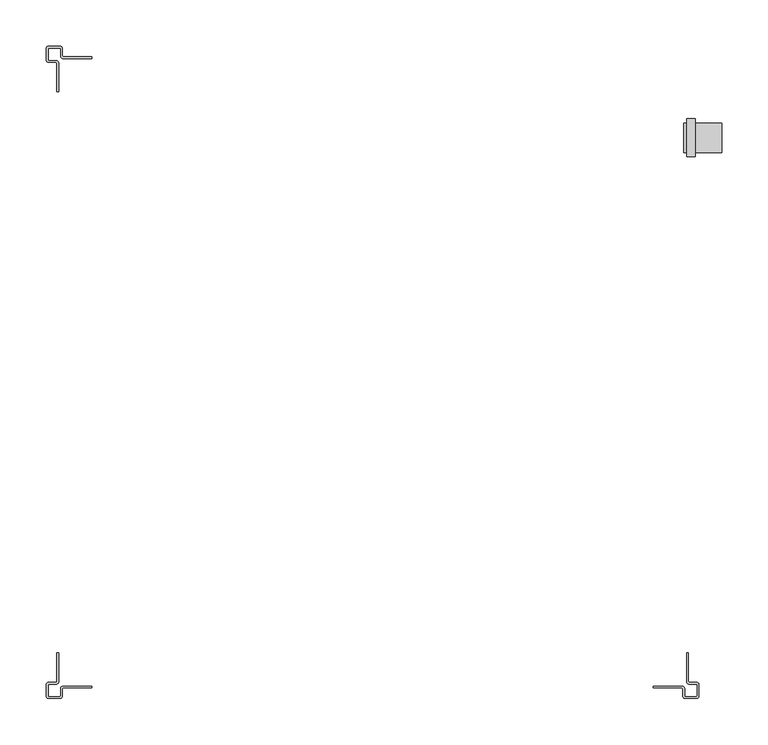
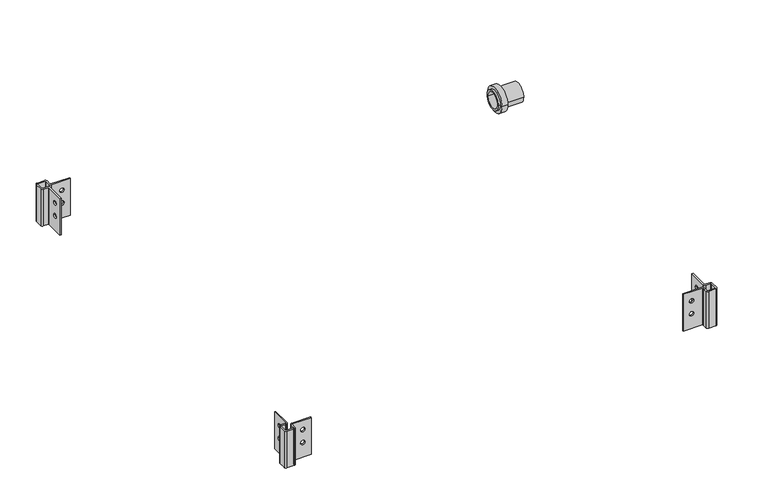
"""IFC4 building model written with IfcOpenShell, lengths in millimetres: proxy geometry, 50 SWHP : #50-SWHP."""

from ifc_helpers import new_model, si_unit, point, frame, frame_2d, origin, place, context, project, spatial, polyline, circle_curve, trimmed, segment, composite_curve, outline, extrude, source, transform, mapped, element, save
from ifc_brep_helpers import plane_surface, cylinder_surface, revolved_surface, advanced_brep


def generic_models_8b985dce(model_context):
    return source(origin(), model_context, "Body", "SolidModel", [
        advanced_brep(
        [(341.7316, -303.7332, 63.5), (339.725, -303.7332, 63.5), (339.725, -334.8736, 63.5), (342.4936, -337.6422, 63.5), (350.393, -337.6422, 63.5), (351.155, -338.4042, 63.5), (351.155, -350.393, 63.5), (350.393, -351.155, 63.5), (338.4042, -351.155, 63.5), (337.6422, -350.393, 63.5), (337.6422, -342.4936, 63.5), (334.8736, -339.725, 63.5), (303.7332, -339.725, 63.5), (303.7332, -341.7316, 63.5), (334.8736, -341.7316, 63.5), (335.6356, -342.4936, 63.5), (335.6356, -350.393, 63.5), (338.4042, -353.1616, 63.5), (350.393, -353.1616, 63.5), (353.1616, -350.393, 63.5), (353.1616, -338.4042, 63.5), (350.393, -335.6356, 63.5), (342.4936, -335.6356, 63.5), (341.7316, -334.8736, 63.5), (341.7316, -303.7332, 0.0), (341.7316, -334.8736, 0.0), (342.4936, -335.6356, 0.0), (350.393, -335.6356, 0.0), (353.1616, -338.4042, 0.0), (353.1616, -350.393, 0.0), (350.393, -353.1616, 0.0), (338.4042, -353.1616, 0.0), (335.6356, -350.393, 0.0), (335.6356, -342.4936, 0.0), (334.8736, -341.7316, 0.0), (303.7332, -341.7316, 0.0), (303.7332, -339.725, 0.0), (334.8736, -339.725, 0.0), (337.6422, -342.4936, 0.0), (337.6422, -350.393, 0.0), (338.4042, -351.155, 0.0), (350.393, -351.155, 0.0), (351.155, -350.393, 0.0), (351.155, -338.4042, 0.0), (350.393, -337.6422, 0.0), (342.4936, -337.6422, 0.0), (339.725, -334.8736, 0.0), (339.725, -303.7332, 0.0), (339.725, -321.0687, 47.625), (339.725, -313.9313, 47.625), (339.725, -321.0687, 25.4), (339.725, -313.9313, 25.4), (313.9313, -339.725, 47.625), (321.0687, -339.725, 47.625), (313.9313, -339.725, 25.4), (321.0687, -339.725, 25.4), (321.0687, -341.7316, 47.625), (313.9313, -341.7316, 47.625), (321.0687, -341.7316, 25.4), (313.9313, -341.7316, 25.4), (341.7316, -313.9313, 47.625), (341.7316, -321.0687, 47.625), (341.7316, -313.9313, 25.4), (341.7316, -321.0687, 25.4)],
        [
            (0, 1),
            (1, 2),
            (2, 3, circle_curve(frame((342.4936, -334.8736, 63.5), z_axis=(0.0, 0.0, 1.0), x_axis=(1.0, 0.0, 0.0)), 2.7686)),
            (3, 4),
            (4, 5, circle_curve(frame((350.393, -338.4042, 63.5), z_axis=(0.0, 0.0, -1.0), x_axis=(1.0, 0.0, 0.0)), 0.762)),
            (5, 6),
            (6, 7, circle_curve(frame((350.393, -350.393, 63.5), z_axis=(0.0, 0.0, -1.0), x_axis=(1.0, 0.0, 0.0)), 0.762)),
            (7, 8),
            (8, 9, circle_curve(frame((338.4042, -350.393, 63.5), z_axis=(0.0, 0.0, -1.0), x_axis=(1.0, 0.0, 0.0)), 0.762)),
            (9, 10),
            (10, 11, circle_curve(frame((334.8736, -342.4936, 63.5), z_axis=(0.0, 0.0, 1.0), x_axis=(1.0, 0.0, 0.0)), 2.7686)),
            (11, 12),
            (12, 13),
            (13, 14),
            (14, 15, circle_curve(frame((334.8736, -342.4936, 63.5), z_axis=(0.0, 0.0, -1.0), x_axis=(1.0, 0.0, 0.0)), 0.762)),
            (15, 16),
            (16, 17, circle_curve(frame((338.4042, -350.393, 63.5), z_axis=(0.0, 0.0, 1.0), x_axis=(1.0, 0.0, 0.0)), 2.7686)),
            (17, 18),
            (18, 19, circle_curve(frame((350.393, -350.393, 63.5), z_axis=(0.0, 0.0, 1.0), x_axis=(1.0, 0.0, 0.0)), 2.7686)),
            (19, 20),
            (20, 21, circle_curve(frame((350.393, -338.4042, 63.5), z_axis=(0.0, 0.0, 1.0), x_axis=(1.0, 0.0, 0.0)), 2.7686)),
            (21, 22),
            (22, 23, circle_curve(frame((342.4936, -334.8736, 63.5), z_axis=(0.0, 0.0, -1.0), x_axis=(1.0, 0.0, 0.0)), 0.762)),
            (23, 0),
            (24, 25),
            (25, 26, circle_curve(frame((342.4936, -334.8736, 0.0), z_axis=(0.0, 0.0, 1.0), x_axis=(1.0, 0.0, 0.0)), 0.762)),
            (26, 27),
            (27, 28, circle_curve(frame((350.393, -338.4042, 0.0), z_axis=(0.0, 0.0, -1.0), x_axis=(1.0, 0.0, 0.0)), 2.7686)),
            (28, 29),
            (29, 30, circle_curve(frame((350.393, -350.393, 0.0), z_axis=(0.0, 0.0, -1.0), x_axis=(1.0, 0.0, 0.0)), 2.7686)),
            (30, 31),
            (31, 32, circle_curve(frame((338.4042, -350.393, 0.0), z_axis=(0.0, 0.0, -1.0), x_axis=(1.0, 0.0, 0.0)), 2.7686)),
            (32, 33),
            (33, 34, circle_curve(frame((334.8736, -342.4936, 0.0), z_axis=(0.0, 0.0, 1.0), x_axis=(1.0, 0.0, 0.0)), 0.762)),
            (34, 35),
            (35, 36),
            (36, 37),
            (37, 38, circle_curve(frame((334.8736, -342.4936, 0.0), z_axis=(0.0, 0.0, -1.0), x_axis=(1.0, 0.0, 0.0)), 2.7686)),
            (38, 39),
            (39, 40, circle_curve(frame((338.4042, -350.393, 0.0), z_axis=(0.0, 0.0, 1.0), x_axis=(1.0, 0.0, 0.0)), 0.762)),
            (40, 41),
            (41, 42, circle_curve(frame((350.393, -350.393, 0.0), z_axis=(0.0, 0.0, 1.0), x_axis=(1.0, 0.0, 0.0)), 0.762)),
            (42, 43),
            (43, 44, circle_curve(frame((350.393, -338.4042, 0.0), z_axis=(0.0, 0.0, 1.0), x_axis=(1.0, 0.0, 0.0)), 0.762)),
            (44, 45),
            (45, 46, circle_curve(frame((342.4936, -334.8736, 0.0), z_axis=(0.0, 0.0, -1.0), x_axis=(1.0, 0.0, 0.0)), 2.7686)),
            (46, 47),
            (47, 24),
            (0, 24),
            (47, 1),
            (46, 2),
            (48, 49, circle_curve(frame((339.725, -317.5, 47.625), z_axis=(1.0, 0.0, 0.0), x_axis=(0.0, -1.0, 0.0)), 3.5687)),
            (49, 48, circle_curve(frame((339.725, -317.5, 47.625), z_axis=(1.0, 0.0, 0.0), x_axis=(0.0, -1.0, 0.0)), 3.5687)),
            (50, 51, circle_curve(frame((339.725, -317.5, 25.4), z_axis=(1.0, 0.0, 0.0), x_axis=(0.0, -1.0, 0.0)), 3.5687)),
            (51, 50, circle_curve(frame((339.725, -317.5, 25.4), z_axis=(1.0, 0.0, 0.0), x_axis=(0.0, -1.0, 0.0)), 3.5687)),
            (45, 3),
            (44, 4),
            (43, 5),
            (42, 6),
            (41, 7),
            (40, 8),
            (39, 9),
            (38, 10),
            (37, 11),
            (36, 12),
            (52, 53, circle_curve(frame((317.5, -339.725, 47.625), z_axis=(0.0, -1.0, 0.0), x_axis=(-1.0, 0.0, 0.0)), 3.5687)),
            (53, 52, circle_curve(frame((317.5, -339.725, 47.625), z_axis=(0.0, -1.0, 0.0), x_axis=(-1.0, 0.0, 0.0)), 3.5687)),
            (54, 55, circle_curve(frame((317.5, -339.725, 25.4), z_axis=(0.0, -1.0, 0.0), x_axis=(-1.0, 0.0, 0.0)), 3.5687)),
            (55, 54, circle_curve(frame((317.5, -339.725, 25.4), z_axis=(0.0, -1.0, 0.0), x_axis=(-1.0, 0.0, 0.0)), 3.5687)),
            (35, 13),
            (34, 14),
            (56, 57, circle_curve(frame((317.5, -341.7316, 47.625), z_axis=(0.0, 1.0, 0.0), x_axis=(-1.0, 0.0, 0.0)), 3.5687)),
            (57, 56, circle_curve(frame((317.5, -341.7316, 47.625), z_axis=(0.0, 1.0, 0.0), x_axis=(-1.0, 0.0, 0.0)), 3.5687)),
            (58, 59, circle_curve(frame((317.5, -341.7316, 25.4), z_axis=(0.0, 1.0, 0.0), x_axis=(-1.0, 0.0, 0.0)), 3.5687)),
            (59, 58, circle_curve(frame((317.5, -341.7316, 25.4), z_axis=(0.0, 1.0, 0.0), x_axis=(-1.0, 0.0, 0.0)), 3.5687)),
            (33, 15),
            (32, 16),
            (31, 17),
            (30, 18),
            (29, 19),
            (28, 20),
            (27, 21),
            (26, 22),
            (25, 23),
            (60, 61, circle_curve(frame((341.7316, -317.5, 47.625), z_axis=(-1.0, 0.0, 0.0), x_axis=(0.0, -1.0, 0.0)), 3.5687)),
            (61, 60, circle_curve(frame((341.7316, -317.5, 47.625), z_axis=(-1.0, 0.0, 0.0), x_axis=(0.0, -1.0, 0.0)), 3.5687)),
            (62, 63, circle_curve(frame((341.7316, -317.5, 25.4), z_axis=(-1.0, 0.0, 0.0), x_axis=(0.0, -1.0, 0.0)), 3.5687)),
            (63, 62, circle_curve(frame((341.7316, -317.5, 25.4), z_axis=(-1.0, 0.0, 0.0), x_axis=(0.0, -1.0, 0.0)), 3.5687)),
            (56, 53),
            (52, 57),
            (58, 55),
            (54, 59),
            (60, 49),
            (48, 61),
            (62, 51),
            (50, 63),
        ],
        [
            plane_surface(frame((339.725, -303.7332, 63.5), z_axis=(0.0, 0.0, 1.0), x_axis=(-1.0, 0.0, 0.0))),
            plane_surface(frame((339.725, -303.7332, 0.0), z_axis=(0.0, 0.0, -1.0), x_axis=(1.0, 0.0, 0.0))),
            plane_surface(frame((341.7316, -303.7332, 63.5), z_axis=(0.0, 1.0, 0.0), x_axis=(0.0, 0.0, -1.0))),
            plane_surface(frame((339.725, -303.7332, 63.5), z_axis=(-1.0, 0.0, 0.0), x_axis=(0.0, 0.0, -1.0))),
            cylinder_surface(frame((342.4936, -334.8736, 0.0), z_axis=(0.0, 0.0, 1.0), x_axis=(1.0, 0.0, 0.0)), 2.7686),
            plane_surface(frame((342.4936, -337.6422, 63.5), z_axis=(0.0, -1.0, 0.0), x_axis=(0.0, 0.0, -1.0))),
            revolved_surface(polyline([(351.155, -338.4042, 0.0), (351.155, -338.4042, 63.5)]), (350.393, -338.4042, 0.0), (0.0, 0.0, -1.0)),
            plane_surface(frame((351.155, -338.4042, 63.5), z_axis=(-1.0, 0.0, 0.0), x_axis=(0.0, 0.0, -1.0))),
            revolved_surface(polyline([(351.155, -350.393, 0.0), (351.155, -350.393, 63.5)]), (350.393, -350.393, 0.0), (0.0, 0.0, -1.0)),
            plane_surface(frame((350.393, -351.155, 63.5), z_axis=(0.0, 1.0, 0.0), x_axis=(0.0, 0.0, -1.0))),
            revolved_surface(polyline([(339.1662, -350.393, 0.0), (339.1662, -350.393, 63.5)]), (338.4042, -350.393, 0.0), (0.0, 0.0, -1.0)),
            plane_surface(frame((337.6422, -350.393, 63.5), z_axis=(1.0, 0.0, 0.0), x_axis=(0.0, 0.0, -1.0))),
            cylinder_surface(frame((334.8736, -342.4936, 0.0), z_axis=(0.0, 0.0, 1.0), x_axis=(1.0, 0.0, 0.0)), 2.7686),
            plane_surface(frame((334.8736, -339.725, 63.5), z_axis=(0.0, 1.0, 0.0), x_axis=(0.0, 0.0, -1.0))),
            plane_surface(frame((303.7332, -339.725, 63.5), z_axis=(-1.0, 0.0, 0.0), x_axis=(0.0, 0.0, -1.0))),
            plane_surface(frame((303.7332, -341.7316, 63.5), z_axis=(0.0, -1.0, 0.0), x_axis=(0.0, 0.0, -1.0))),
            revolved_surface(polyline([(335.6356, -342.4936, 0.0), (335.6356, -342.4936, 63.5)]), (334.8736, -342.4936, 0.0), (0.0, 0.0, -1.0)),
            plane_surface(frame((335.6356, -342.4936, 63.5), z_axis=(-1.0, 0.0, 0.0), x_axis=(0.0, 0.0, -1.0))),
            cylinder_surface(frame((338.4042, -350.393, 0.0), z_axis=(0.0, 0.0, 1.0), x_axis=(1.0, 0.0, 0.0)), 2.7686),
            plane_surface(frame((338.4042, -353.1616, 63.5), z_axis=(0.0, -1.0, 0.0), x_axis=(0.0, 0.0, -1.0))),
            cylinder_surface(frame((350.393, -350.393, 0.0), z_axis=(0.0, 0.0, 1.0), x_axis=(1.0, 0.0, 0.0)), 2.7686),
            plane_surface(frame((353.1616, -350.393, 63.5), z_axis=(1.0, 0.0, 0.0), x_axis=(0.0, 0.0, -1.0))),
            cylinder_surface(frame((350.393, -338.4042, 0.0), z_axis=(0.0, 0.0, 1.0), x_axis=(1.0, 0.0, 0.0)), 2.7686),
            plane_surface(frame((350.393, -335.6356, 63.5), z_axis=(0.0, 1.0, 0.0), x_axis=(0.0, 0.0, -1.0))),
            revolved_surface(polyline([(343.2556, -334.8736, 0.0), (343.2556, -334.8736, 63.5)]), (342.4936, -334.8736, 0.0), (0.0, 0.0, -1.0)),
            plane_surface(frame((341.7316, -334.8736, 63.5), z_axis=(1.0, 0.0, 0.0), x_axis=(0.0, 0.0, -1.0))),
            revolved_surface(polyline([(313.9313, -339.725, 47.625), (313.9313, -341.7316, 47.625)]), (317.5, -344.3986, 47.625), (0.0, 1.0, 0.0)),
            revolved_surface(polyline([(313.9313, -339.725, 25.4), (313.9313, -341.7316, 25.4)]), (317.5, -344.3986, 25.4), (0.0, 1.0, 0.0)),
            revolved_surface(polyline([(339.725, -321.0687, 47.625), (341.7316, -321.0687, 47.625)]), (344.3986, -317.5, 47.625), (-1.0, 0.0, 0.0)),
            revolved_surface(polyline([(339.725, -321.0687, 25.4), (341.7316, -321.0687, 25.4)]), (344.3986, -317.5, 25.4), (-1.0, 0.0, 0.0)),
        ],
        [
            (0, [[1, 2, 3, 4, 5, 6, 7, 8, 9, 10, 11, 12, 13, 14, 15, 16, 17, 18, 19, 20, 21, 22, 23, 24]]),
            (1, [[25, 26, 27, 28, 29, 30, 31, 32, 33, 34, 35, 36, 37, 38, 39, 40, 41, 42, 43, 44, 45, 46, 47, 48]]),
            (2, [[-1, 49, -48, 50]]),
            (3, [[-2, -50, -47, 51], [52, 53], [54, 55]]),
            (4, [[-3, -51, -46, 56]]),
            (5, [[-4, -56, -45, 57]]),
            (6, [[-5, -57, -44, 58]]),
            (7, [[-6, -58, -43, 59]]),
            (8, [[-7, -59, -42, 60]]),
            (9, [[-8, -60, -41, 61]]),
            (10, [[-9, -61, -40, 62]]),
            (11, [[-10, -62, -39, 63]]),
            (12, [[-11, -63, -38, 64]]),
            (13, [[-12, -64, -37, 65], [66, 67], [68, 69]]),
            (14, [[-13, -65, -36, 70]]),
            (15, [[-14, -70, -35, 71], [72, 73], [74, 75]]),
            (16, [[-15, -71, -34, 76]]),
            (17, [[-16, -76, -33, 77]]),
            (18, [[-17, -77, -32, 78]]),
            (19, [[-18, -78, -31, 79]]),
            (20, [[-19, -79, -30, 80]]),
            (21, [[-20, -80, -29, 81]]),
            (22, [[-21, -81, -28, 82]]),
            (23, [[-22, -82, -27, 83]]),
            (24, [[-23, -83, -26, 84]]),
            (25, [[-24, -84, -25, -49], [85, 86], [87, 88]]),
            (26, [[89, -66, 90, -72]]),
            (26, [[-89, -73, -90, -67]]),
            (27, [[91, -68, 92, -74]]),
            (27, [[-91, -75, -92, -69]]),
            (28, [[93, -52, 94, -85]]),
            (28, [[-93, -86, -94, -53]]),
            (29, [[95, -54, 96, -87]]),
            (29, [[-95, -88, -96, -55]]),
        ],
    ),
        advanced_brep(
        [(-341.7316, -334.8736, 63.5), (-342.4936, -335.6356, 63.5), (-350.393, -335.6356, 63.5), (-353.1616, -338.4042, 63.5), (-353.1616, -350.393, 63.5), (-350.393, -353.1616, 63.5), (-338.4042, -353.1616, 63.5), (-335.6356, -350.393, 63.5), (-335.6356, -342.4936, 63.5), (-334.8736, -341.7316, 63.5), (-303.7332, -341.7316, 63.5), (-303.7332, -339.725, 63.5), (-334.8736, -339.725, 63.5), (-337.6422, -342.4936, 63.5), (-337.6422, -350.393, 63.5), (-338.4042, -351.155, 63.5), (-350.393, -351.155, 63.5), (-351.155, -350.393, 63.5), (-351.155, -338.4042, 63.5), (-350.393, -337.6422, 63.5), (-342.4936, -337.6422, 63.5), (-339.725, -334.8736, 63.5), (-339.725, -303.7332, 63.5), (-341.7316, -303.7332, 63.5), (-341.7316, -334.8736, 0.0), (-341.7316, -303.7332, 0.0), (-339.725, -303.7332, 0.0), (-339.725, -334.8736, 0.0), (-342.4936, -337.6422, 0.0), (-350.393, -337.6422, 0.0), (-351.155, -338.4042, 0.0), (-351.155, -350.393, 0.0), (-350.393, -351.155, 0.0), (-338.4042, -351.155, 0.0), (-337.6422, -350.393, 0.0), (-337.6422, -342.4936, 0.0), (-334.8736, -339.725, 0.0), (-303.7332, -339.725, 0.0), (-303.7332, -341.7316, 0.0), (-334.8736, -341.7316, 0.0), (-335.6356, -342.4936, 0.0), (-335.6356, -350.393, 0.0), (-338.4042, -353.1616, 0.0), (-350.393, -353.1616, 0.0), (-353.1616, -350.393, 0.0), (-353.1616, -338.4042, 0.0), (-350.393, -335.6356, 0.0), (-342.4936, -335.6356, 0.0), (-313.9313, -341.7316, 47.625), (-321.0687, -341.7316, 47.625), (-313.9313, -341.7316, 25.4), (-321.0687, -341.7316, 25.4), (-321.0687, -339.725, 47.625), (-313.9313, -339.725, 47.625), (-321.0687, -339.725, 25.4), (-313.9313, -339.725, 25.4), (-339.725, -313.9313, 47.625), (-339.725, -321.0687, 47.625), (-339.725, -313.9313, 25.4), (-339.725, -321.0687, 25.4), (-341.7316, -321.0687, 47.625), (-341.7316, -313.9313, 47.625), (-341.7316, -321.0687, 25.4), (-341.7316, -313.9313, 25.4)],
        [
            (0, 1, circle_curve(frame((-342.4936, -334.8736, 63.5), z_axis=(0.0, 0.0, -1.0), x_axis=(1.0, 0.0, 0.0)), 0.762)),
            (1, 2),
            (2, 3, circle_curve(frame((-350.393, -338.4042, 63.5), z_axis=(0.0, 0.0, 1.0), x_axis=(1.0, 0.0, 0.0)), 2.7686)),
            (3, 4),
            (4, 5, circle_curve(frame((-350.393, -350.393, 63.5), z_axis=(0.0, 0.0, 1.0), x_axis=(1.0, 0.0, 0.0)), 2.7686)),
            (5, 6),
            (6, 7, circle_curve(frame((-338.4042, -350.393, 63.5), z_axis=(0.0, 0.0, 1.0), x_axis=(1.0, 0.0, 0.0)), 2.7686)),
            (7, 8),
            (8, 9, circle_curve(frame((-334.8736, -342.4936, 63.5), z_axis=(0.0, 0.0, -1.0), x_axis=(1.0, 0.0, 0.0)), 0.762)),
            (9, 10),
            (10, 11),
            (11, 12),
            (12, 13, circle_curve(frame((-334.8736, -342.4936, 63.5), z_axis=(0.0, 0.0, 1.0), x_axis=(1.0, 0.0, 0.0)), 2.7686)),
            (13, 14),
            (14, 15, circle_curve(frame((-338.4042, -350.393, 63.5), z_axis=(0.0, 0.0, -1.0), x_axis=(1.0, 0.0, 0.0)), 0.762)),
            (15, 16),
            (16, 17, circle_curve(frame((-350.393, -350.393, 63.5), z_axis=(0.0, 0.0, -1.0), x_axis=(1.0, 0.0, 0.0)), 0.762)),
            (17, 18),
            (18, 19, circle_curve(frame((-350.393, -338.4042, 63.5), z_axis=(0.0, 0.0, -1.0), x_axis=(1.0, 0.0, 0.0)), 0.762)),
            (19, 20),
            (20, 21, circle_curve(frame((-342.4936, -334.8736, 63.5), z_axis=(0.0, 0.0, 1.0), x_axis=(1.0, 0.0, 0.0)), 2.7686)),
            (21, 22),
            (22, 23),
            (23, 0),
            (24, 25),
            (25, 26),
            (26, 27),
            (27, 28, circle_curve(frame((-342.4936, -334.8736, 0.0), z_axis=(0.0, 0.0, -1.0), x_axis=(1.0, 0.0, 0.0)), 2.7686)),
            (28, 29),
            (29, 30, circle_curve(frame((-350.393, -338.4042, 0.0), z_axis=(0.0, 0.0, 1.0), x_axis=(1.0, 0.0, 0.0)), 0.762)),
            (30, 31),
            (31, 32, circle_curve(frame((-350.393, -350.393, 0.0), z_axis=(0.0, 0.0, 1.0), x_axis=(1.0, 0.0, 0.0)), 0.762)),
            (32, 33),
            (33, 34, circle_curve(frame((-338.4042, -350.393, 0.0), z_axis=(0.0, 0.0, 1.0), x_axis=(1.0, 0.0, 0.0)), 0.762)),
            (34, 35),
            (35, 36, circle_curve(frame((-334.8736, -342.4936, 0.0), z_axis=(0.0, 0.0, -1.0), x_axis=(1.0, 0.0, 0.0)), 2.7686)),
            (36, 37),
            (37, 38),
            (38, 39),
            (39, 40, circle_curve(frame((-334.8736, -342.4936, 0.0), z_axis=(0.0, 0.0, 1.0), x_axis=(1.0, 0.0, 0.0)), 0.762)),
            (40, 41),
            (41, 42, circle_curve(frame((-338.4042, -350.393, 0.0), z_axis=(0.0, 0.0, -1.0), x_axis=(1.0, 0.0, 0.0)), 2.7686)),
            (42, 43),
            (43, 44, circle_curve(frame((-350.393, -350.393, 0.0), z_axis=(0.0, 0.0, -1.0), x_axis=(1.0, 0.0, 0.0)), 2.7686)),
            (44, 45),
            (45, 46, circle_curve(frame((-350.393, -338.4042, 0.0), z_axis=(0.0, 0.0, -1.0), x_axis=(1.0, 0.0, 0.0)), 2.7686)),
            (46, 47),
            (47, 24, circle_curve(frame((-342.4936, -334.8736, 0.0), z_axis=(0.0, 0.0, 1.0), x_axis=(1.0, 0.0, 0.0)), 0.762)),
            (0, 24),
            (47, 1),
            (46, 2),
            (45, 3),
            (44, 4),
            (43, 5),
            (42, 6),
            (41, 7),
            (40, 8),
            (39, 9),
            (38, 10),
            (48, 49, circle_curve(frame((-317.5, -341.7316, 47.625), z_axis=(0.0, 1.0, 0.0), x_axis=(-1.0, 0.0, 0.0)), 3.5687)),
            (49, 48, circle_curve(frame((-317.5, -341.7316, 47.625), z_axis=(0.0, 1.0, 0.0), x_axis=(-1.0, 0.0, 0.0)), 3.5687)),
            (50, 51, circle_curve(frame((-317.5, -341.7316, 25.4), z_axis=(0.0, 1.0, 0.0), x_axis=(-1.0, 0.0, 0.0)), 3.5687)),
            (51, 50, circle_curve(frame((-317.5, -341.7316, 25.4), z_axis=(0.0, 1.0, 0.0), x_axis=(-1.0, 0.0, 0.0)), 3.5687)),
            (37, 11),
            (36, 12),
            (52, 53, circle_curve(frame((-317.5, -339.725, 47.625), z_axis=(0.0, -1.0, 0.0), x_axis=(-1.0, 0.0, 0.0)), 3.5687)),
            (53, 52, circle_curve(frame((-317.5, -339.725, 47.625), z_axis=(0.0, -1.0, 0.0), x_axis=(-1.0, 0.0, 0.0)), 3.5687)),
            (54, 55, circle_curve(frame((-317.5, -339.725, 25.4), z_axis=(0.0, -1.0, 0.0), x_axis=(-1.0, 0.0, 0.0)), 3.5687)),
            (55, 54, circle_curve(frame((-317.5, -339.725, 25.4), z_axis=(0.0, -1.0, 0.0), x_axis=(-1.0, 0.0, 0.0)), 3.5687)),
            (35, 13),
            (34, 14),
            (33, 15),
            (32, 16),
            (31, 17),
            (30, 18),
            (29, 19),
            (28, 20),
            (27, 21),
            (26, 22),
            (56, 57, circle_curve(frame((-339.725, -317.5, 47.625), z_axis=(-1.0, 0.0, 0.0), x_axis=(0.0, -1.0, 0.0)), 3.5687)),
            (57, 56, circle_curve(frame((-339.725, -317.5, 47.625), z_axis=(-1.0, 0.0, 0.0), x_axis=(0.0, -1.0, 0.0)), 3.5687)),
            (58, 59, circle_curve(frame((-339.725, -317.5, 25.4), z_axis=(-1.0, 0.0, 0.0), x_axis=(0.0, -1.0, 0.0)), 3.5687)),
            (59, 58, circle_curve(frame((-339.725, -317.5, 25.4), z_axis=(-1.0, 0.0, 0.0), x_axis=(0.0, -1.0, 0.0)), 3.5687)),
            (25, 23),
            (60, 61, circle_curve(frame((-341.7316, -317.5, 47.625), z_axis=(1.0, 0.0, 0.0), x_axis=(0.0, -1.0, 0.0)), 3.5687)),
            (61, 60, circle_curve(frame((-341.7316, -317.5, 47.625), z_axis=(1.0, 0.0, 0.0), x_axis=(0.0, -1.0, 0.0)), 3.5687)),
            (62, 63, circle_curve(frame((-341.7316, -317.5, 25.4), z_axis=(1.0, 0.0, 0.0), x_axis=(0.0, -1.0, 0.0)), 3.5687)),
            (63, 62, circle_curve(frame((-341.7316, -317.5, 25.4), z_axis=(1.0, 0.0, 0.0), x_axis=(0.0, -1.0, 0.0)), 3.5687)),
            (56, 61),
            (60, 57),
            (58, 63),
            (62, 59),
            (48, 53),
            (52, 49),
            (50, 55),
            (54, 51),
        ],
        [
            plane_surface(frame((-341.7316, -334.8736, 63.5), z_axis=(0.0, 0.0, 1.0), x_axis=(0.0, -1.0, 0.0))),
            plane_surface(frame((-341.7316, -334.8736, 0.0), z_axis=(0.0, 0.0, -1.0), x_axis=(0.0, 1.0, 0.0))),
            revolved_surface(polyline([(-341.7316, -334.8736, 0.0), (-341.7316, -334.8736, 63.5)]), (-342.4936, -334.8736, 0.0), (0.0, 0.0, -1.0)),
            plane_surface(frame((-342.4936, -335.6356, 63.5), z_axis=(0.0, 1.0, 0.0), x_axis=(0.0, 0.0, -1.0))),
            cylinder_surface(frame((-350.393, -338.4042, 0.0), z_axis=(0.0, 0.0, 1.0), x_axis=(1.0, 0.0, 0.0)), 2.7686),
            plane_surface(frame((-353.1616, -338.4042, 63.5), z_axis=(-1.0, 0.0, 0.0), x_axis=(0.0, 0.0, -1.0))),
            cylinder_surface(frame((-350.393, -350.393, 0.0), z_axis=(0.0, 0.0, 1.0), x_axis=(1.0, 0.0, 0.0)), 2.7686),
            plane_surface(frame((-350.393, -353.1616, 63.5), z_axis=(0.0, -1.0, 0.0), x_axis=(0.0, 0.0, -1.0))),
            cylinder_surface(frame((-338.4042, -350.393, 0.0), z_axis=(0.0, 0.0, 1.0), x_axis=(1.0, 0.0, 0.0)), 2.7686),
            plane_surface(frame((-335.6356, -350.393, 63.5), z_axis=(1.0, 0.0, 0.0), x_axis=(0.0, 0.0, -1.0))),
            revolved_surface(polyline([(-334.1116, -342.4936, 0.0), (-334.1116, -342.4936, 63.5)]), (-334.8736, -342.4936, 0.0), (0.0, 0.0, -1.0)),
            plane_surface(frame((-334.8736, -341.7316, 63.5), z_axis=(0.0, -1.0, 0.0), x_axis=(0.0, 0.0, -1.0))),
            plane_surface(frame((-303.7332, -341.7316, 63.5), z_axis=(1.0, 0.0, 0.0), x_axis=(0.0, 0.0, -1.0))),
            plane_surface(frame((-303.7332, -339.725, 63.5), z_axis=(0.0, 1.0, 0.0), x_axis=(0.0, 0.0, -1.0))),
            cylinder_surface(frame((-334.8736, -342.4936, 0.0), z_axis=(0.0, 0.0, 1.0), x_axis=(1.0, 0.0, 0.0)), 2.7686),
            plane_surface(frame((-337.6422, -342.4936, 63.5), z_axis=(-1.0, 0.0, 0.0), x_axis=(0.0, 0.0, -1.0))),
            revolved_surface(polyline([(-337.6422, -350.393, 0.0), (-337.6422, -350.393, 63.5)]), (-338.4042, -350.393, 0.0), (0.0, 0.0, -1.0)),
            plane_surface(frame((-338.4042, -351.155, 63.5), z_axis=(0.0, 1.0, 0.0), x_axis=(0.0, 0.0, -1.0))),
            revolved_surface(polyline([(-349.631, -350.393, 0.0), (-349.631, -350.393, 63.5)]), (-350.393, -350.393, 0.0), (0.0, 0.0, -1.0)),
            plane_surface(frame((-351.155, -350.393, 63.5), z_axis=(1.0, 0.0, 0.0), x_axis=(0.0, 0.0, -1.0))),
            revolved_surface(polyline([(-349.631, -338.4042, 0.0), (-349.631, -338.4042, 63.5)]), (-350.393, -338.4042, 0.0), (0.0, 0.0, -1.0)),
            plane_surface(frame((-350.393, -337.6422, 63.5), z_axis=(0.0, -1.0, 0.0), x_axis=(0.0, 0.0, -1.0))),
            cylinder_surface(frame((-342.4936, -334.8736, 0.0), z_axis=(0.0, 0.0, 1.0), x_axis=(1.0, 0.0, 0.0)), 2.7686),
            plane_surface(frame((-339.725, -334.8736, 63.5), z_axis=(1.0, 0.0, 0.0), x_axis=(0.0, 0.0, -1.0))),
            plane_surface(frame((-339.725, -303.7332, 63.5), z_axis=(0.0, 1.0, 0.0), x_axis=(0.0, 0.0, -1.0))),
            plane_surface(frame((-341.7316, -303.7332, 63.5), z_axis=(-1.0, 0.0, 0.0), x_axis=(0.0, 0.0, -1.0))),
            revolved_surface(polyline([(-341.7316, -321.0687, 47.625), (-339.725, -321.0687, 47.625)]), (-336.55, -317.5, 47.625), (-1.0, 0.0, 0.0)),
            revolved_surface(polyline([(-341.7316, -321.0687, 25.4), (-339.725, -321.0687, 25.4)]), (-344.3986, -317.5, 25.4), (-1.0, 0.0, 0.0)),
            revolved_surface(polyline([(-321.0687, -339.725, 47.625), (-321.0687, -341.7316, 47.625)]), (-317.5, -344.3986, 47.625), (0.0, 1.0, 0.0)),
            revolved_surface(polyline([(-321.0687, -339.725, 25.4), (-321.0687, -341.7316, 25.4)]), (-317.5, -344.3986, 25.4), (0.0, 1.0, 0.0)),
        ],
        [
            (0, [[1, 2, 3, 4, 5, 6, 7, 8, 9, 10, 11, 12, 13, 14, 15, 16, 17, 18, 19, 20, 21, 22, 23, 24]]),
            (1, [[25, 26, 27, 28, 29, 30, 31, 32, 33, 34, 35, 36, 37, 38, 39, 40, 41, 42, 43, 44, 45, 46, 47, 48]]),
            (2, [[-1, 49, -48, 50]]),
            (3, [[-2, -50, -47, 51]]),
            (4, [[-3, -51, -46, 52]]),
            (5, [[-4, -52, -45, 53]]),
            (6, [[-5, -53, -44, 54]]),
            (7, [[-6, -54, -43, 55]]),
            (8, [[-7, -55, -42, 56]]),
            (9, [[-8, -56, -41, 57]]),
            (10, [[-9, -57, -40, 58]]),
            (11, [[-10, -58, -39, 59], [60, 61], [62, 63]]),
            (12, [[-11, -59, -38, 64]]),
            (13, [[-12, -64, -37, 65], [66, 67], [68, 69]]),
            (14, [[-13, -65, -36, 70]]),
            (15, [[-14, -70, -35, 71]]),
            (16, [[-15, -71, -34, 72]]),
            (17, [[-16, -72, -33, 73]]),
            (18, [[-17, -73, -32, 74]]),
            (19, [[-18, -74, -31, 75]]),
            (20, [[-19, -75, -30, 76]]),
            (21, [[-20, -76, -29, 77]]),
            (22, [[-21, -77, -28, 78]]),
            (23, [[-22, -78, -27, 79], [80, 81], [82, 83]]),
            (24, [[-23, -79, -26, 84]]),
            (25, [[-24, -84, -25, -49], [85, 86], [87, 88]]),
            (26, [[89, -85, 90, -80]]),
            (26, [[-89, -81, -90, -86]]),
            (27, [[91, -87, 92, -82]]),
            (27, [[-91, -83, -92, -88]]),
            (28, [[93, -66, 94, -60]]),
            (28, [[-93, -61, -94, -67]]),
            (29, [[95, -68, 96, -62]]),
            (29, [[-95, -63, -96, -69]]),
        ],
    ),
        advanced_brep(
        [(-303.7332, 341.7316, 63.5), (-334.8736, 341.7316, 63.5), (-335.6356, 342.4936, 63.5), (-335.6356, 350.393, 63.5), (-338.4042, 353.1616, 63.5), (-350.393, 353.1616, 63.5), (-353.1616, 350.393, 63.5), (-353.1616, 338.4042, 63.5), (-350.393, 335.6356, 63.5), (-342.4936, 335.6356, 63.5), (-341.7316, 334.8736, 63.5), (-341.7316, 303.7332, 63.5), (-339.725, 303.7332, 63.5), (-339.725, 334.8736, 63.5), (-342.4936, 337.6422, 63.5), (-350.393, 337.6422, 63.5), (-351.155, 338.4042, 63.5), (-351.155, 350.393, 63.5), (-350.393, 351.155, 63.5), (-338.4042, 351.155, 63.5), (-337.6422, 350.393, 63.5), (-337.6422, 342.4936, 63.5), (-334.8736, 339.725, 63.5), (-303.7332, 339.725, 63.5), (-303.7332, 341.7316, 0.0), (-303.7332, 339.725, 0.0), (-334.8736, 339.725, 0.0), (-337.6422, 342.4936, 0.0), (-337.6422, 350.393, 0.0), (-338.4042, 351.155, 0.0), (-350.393, 351.155, 0.0), (-351.155, 350.393, 0.0), (-351.155, 338.4042, 0.0), (-350.393, 337.6422, 0.0), (-342.4936, 337.6422, 0.0), (-339.725, 334.8736, 0.0), (-339.725, 303.7332, 0.0), (-341.7316, 303.7332, 0.0), (-341.7316, 334.8736, 0.0), (-342.4936, 335.6356, 0.0), (-350.393, 335.6356, 0.0), (-353.1616, 338.4042, 0.0), (-353.1616, 350.393, 0.0), (-350.393, 353.1616, 0.0), (-338.4042, 353.1616, 0.0), (-335.6356, 350.393, 0.0), (-335.6356, 342.4936, 0.0), (-334.8736, 341.7316, 0.0), (-321.0687, 341.7316, 47.625), (-313.9313, 341.7316, 47.625), (-321.0687, 341.7316, 25.4), (-313.9313, 341.7316, 25.4), (-341.7316, 313.9313, 47.625), (-341.7316, 321.0687, 47.625), (-341.7316, 313.9313, 25.4), (-341.7316, 321.0687, 25.4), (-339.725, 321.0687, 47.625), (-339.725, 313.9313, 47.625), (-339.725, 321.0687, 25.4), (-339.725, 313.9313, 25.4), (-313.9313, 339.725, 47.625), (-321.0687, 339.725, 47.625), (-313.9313, 339.725, 25.4), (-321.0687, 339.725, 25.4)],
        [
            (0, 1),
            (1, 2, circle_curve(frame((-334.8736, 342.4936, 63.5), z_axis=(0.0, 0.0, -1.0), x_axis=(1.0, 0.0, 0.0)), 0.762)),
            (2, 3),
            (3, 4, circle_curve(frame((-338.4042, 350.393, 63.5), z_axis=(0.0, 0.0, 1.0), x_axis=(1.0, 0.0, 0.0)), 2.7686)),
            (4, 5),
            (5, 6, circle_curve(frame((-350.393, 350.393, 63.5), z_axis=(0.0, 0.0, 1.0), x_axis=(1.0, 0.0, 0.0)), 2.7686)),
            (6, 7),
            (7, 8, circle_curve(frame((-350.393, 338.4042, 63.5), z_axis=(0.0, 0.0, 1.0), x_axis=(1.0, 0.0, 0.0)), 2.7686)),
            (8, 9),
            (9, 10, circle_curve(frame((-342.4936, 334.8736, 63.5), z_axis=(0.0, 0.0, -1.0), x_axis=(1.0, 0.0, 0.0)), 0.762)),
            (10, 11),
            (11, 12),
            (12, 13),
            (13, 14, circle_curve(frame((-342.4936, 334.8736, 63.5), z_axis=(0.0, 0.0, 1.0), x_axis=(1.0, 0.0, 0.0)), 2.7686)),
            (14, 15),
            (15, 16, circle_curve(frame((-350.393, 338.4042, 63.5), z_axis=(0.0, 0.0, -1.0), x_axis=(1.0, 0.0, 0.0)), 0.762)),
            (16, 17),
            (17, 18, circle_curve(frame((-350.393, 350.393, 63.5), z_axis=(0.0, 0.0, -1.0), x_axis=(1.0, 0.0, 0.0)), 0.762)),
            (18, 19),
            (19, 20, circle_curve(frame((-338.4042, 350.393, 63.5), z_axis=(0.0, 0.0, -1.0), x_axis=(1.0, 0.0, 0.0)), 0.762)),
            (20, 21),
            (21, 22, circle_curve(frame((-334.8736, 342.4936, 63.5), z_axis=(0.0, 0.0, 1.0), x_axis=(1.0, 0.0, 0.0)), 2.7686)),
            (22, 23),
            (23, 0),
            (24, 25),
            (25, 26),
            (26, 27, circle_curve(frame((-334.8736, 342.4936, 0.0), z_axis=(0.0, 0.0, -1.0), x_axis=(1.0, 0.0, 0.0)), 2.7686)),
            (27, 28),
            (28, 29, circle_curve(frame((-338.4042, 350.393, 0.0), z_axis=(0.0, 0.0, 1.0), x_axis=(1.0, 0.0, 0.0)), 0.762)),
            (29, 30),
            (30, 31, circle_curve(frame((-350.393, 350.393, 0.0), z_axis=(0.0, 0.0, 1.0), x_axis=(1.0, 0.0, 0.0)), 0.762)),
            (31, 32),
            (32, 33, circle_curve(frame((-350.393, 338.4042, 0.0), z_axis=(0.0, 0.0, 1.0), x_axis=(1.0, 0.0, 0.0)), 0.762)),
            (33, 34),
            (34, 35, circle_curve(frame((-342.4936, 334.8736, 0.0), z_axis=(0.0, 0.0, -1.0), x_axis=(1.0, 0.0, 0.0)), 2.7686)),
            (35, 36),
            (36, 37),
            (37, 38),
            (38, 39, circle_curve(frame((-342.4936, 334.8736, 0.0), z_axis=(0.0, 0.0, 1.0), x_axis=(1.0, 0.0, 0.0)), 0.762)),
            (39, 40),
            (40, 41, circle_curve(frame((-350.393, 338.4042, 0.0), z_axis=(0.0, 0.0, -1.0), x_axis=(1.0, 0.0, 0.0)), 2.7686)),
            (41, 42),
            (42, 43, circle_curve(frame((-350.393, 350.393, 0.0), z_axis=(0.0, 0.0, -1.0), x_axis=(1.0, 0.0, 0.0)), 2.7686)),
            (43, 44),
            (44, 45, circle_curve(frame((-338.4042, 350.393, 0.0), z_axis=(0.0, 0.0, -1.0), x_axis=(1.0, 0.0, 0.0)), 2.7686)),
            (45, 46),
            (46, 47, circle_curve(frame((-334.8736, 342.4936, 0.0), z_axis=(0.0, 0.0, 1.0), x_axis=(1.0, 0.0, 0.0)), 0.762)),
            (47, 24),
            (0, 24),
            (47, 1),
            (48, 49, circle_curve(frame((-317.5, 341.7316, 47.625), z_axis=(0.0, -1.0, 0.0), x_axis=(-1.0, 0.0, 0.0)), 3.5687)),
            (49, 48, circle_curve(frame((-317.5, 341.7316, 47.625), z_axis=(0.0, -1.0, 0.0), x_axis=(-1.0, 0.0, 0.0)), 3.5687)),
            (50, 51, circle_curve(frame((-317.5, 341.7316, 25.4), z_axis=(0.0, -1.0, 0.0), x_axis=(-1.0, 0.0, 0.0)), 3.5687)),
            (51, 50, circle_curve(frame((-317.5, 341.7316, 25.4), z_axis=(0.0, -1.0, 0.0), x_axis=(-1.0, 0.0, 0.0)), 3.5687)),
            (46, 2),
            (45, 3),
            (44, 4),
            (43, 5),
            (42, 6),
            (41, 7),
            (40, 8),
            (39, 9),
            (38, 10),
            (37, 11),
            (52, 53, circle_curve(frame((-341.7316, 317.5, 47.625), z_axis=(1.0, 0.0, 0.0), x_axis=(0.0, -1.0, 0.0)), 3.5687)),
            (53, 52, circle_curve(frame((-341.7316, 317.5, 47.625), z_axis=(1.0, 0.0, 0.0), x_axis=(0.0, -1.0, 0.0)), 3.5687)),
            (54, 55, circle_curve(frame((-341.7316, 317.5, 25.4), z_axis=(1.0, 0.0, 0.0), x_axis=(0.0, -1.0, 0.0)), 3.5687)),
            (55, 54, circle_curve(frame((-341.7316, 317.5, 25.4), z_axis=(1.0, 0.0, 0.0), x_axis=(0.0, -1.0, 0.0)), 3.5687)),
            (36, 12),
            (35, 13),
            (56, 57, circle_curve(frame((-339.725, 317.5, 47.625), z_axis=(-1.0, 0.0, 0.0), x_axis=(0.0, -1.0, 0.0)), 3.5687)),
            (57, 56, circle_curve(frame((-339.725, 317.5, 47.625), z_axis=(-1.0, 0.0, 0.0), x_axis=(0.0, -1.0, 0.0)), 3.5687)),
            (58, 59, circle_curve(frame((-339.725, 317.5, 25.4), z_axis=(-1.0, 0.0, 0.0), x_axis=(0.0, -1.0, 0.0)), 3.5687)),
            (59, 58, circle_curve(frame((-339.725, 317.5, 25.4), z_axis=(-1.0, 0.0, 0.0), x_axis=(0.0, -1.0, 0.0)), 3.5687)),
            (34, 14),
            (33, 15),
            (32, 16),
            (31, 17),
            (30, 18),
            (29, 19),
            (28, 20),
            (27, 21),
            (26, 22),
            (25, 23),
            (60, 61, circle_curve(frame((-317.5, 339.725, 47.625), z_axis=(0.0, 1.0, 0.0), x_axis=(-1.0, 0.0, 0.0)), 3.5687)),
            (61, 60, circle_curve(frame((-317.5, 339.725, 47.625), z_axis=(0.0, 1.0, 0.0), x_axis=(-1.0, 0.0, 0.0)), 3.5687)),
            (62, 63, circle_curve(frame((-317.5, 339.725, 25.4), z_axis=(0.0, 1.0, 0.0), x_axis=(-1.0, 0.0, 0.0)), 3.5687)),
            (63, 62, circle_curve(frame((-317.5, 339.725, 25.4), z_axis=(0.0, 1.0, 0.0), x_axis=(-1.0, 0.0, 0.0)), 3.5687)),
            (56, 53),
            (52, 57),
            (58, 55),
            (54, 59),
            (60, 49),
            (48, 61),
            (62, 51),
            (50, 63),
        ],
        [
            plane_surface(frame((-334.8736, 341.7316, 63.5), z_axis=(0.0, 0.0, 1.0), x_axis=(-1.0, 0.0, 0.0))),
            plane_surface(frame((-334.8736, 341.7316, 0.0), z_axis=(0.0, 0.0, -1.0), x_axis=(1.0, 0.0, 0.0))),
            plane_surface(frame((-303.7332, 341.7316, 63.5), z_axis=(0.0, 1.0, 0.0), x_axis=(0.0, 0.0, -1.0))),
            revolved_surface(polyline([(-334.1116, 342.4936, 0.0), (-334.1116, 342.4936, 63.5)]), (-334.8736, 342.4936, 0.0), (0.0, 0.0, -1.0)),
            plane_surface(frame((-335.6356, 342.4936, 63.5), z_axis=(1.0, 0.0, 0.0), x_axis=(0.0, 0.0, -1.0))),
            cylinder_surface(frame((-338.4042, 350.393, 0.0), z_axis=(0.0, 0.0, 1.0), x_axis=(1.0, 0.0, 0.0)), 2.7686),
            plane_surface(frame((-338.4042, 353.1616, 63.5), z_axis=(0.0, 1.0, 0.0), x_axis=(0.0, 0.0, -1.0))),
            cylinder_surface(frame((-350.393, 350.393, 0.0), z_axis=(0.0, 0.0, 1.0), x_axis=(1.0, 0.0, 0.0)), 2.7686),
            plane_surface(frame((-353.1616, 350.393, 63.5), z_axis=(-1.0, 0.0, 0.0), x_axis=(0.0, 0.0, -1.0))),
            cylinder_surface(frame((-350.393, 338.4042, 0.0), z_axis=(0.0, 0.0, 1.0), x_axis=(1.0, 0.0, 0.0)), 2.7686),
            plane_surface(frame((-350.393, 335.6356, 63.5), z_axis=(0.0, -1.0, 0.0), x_axis=(0.0, 0.0, -1.0))),
            revolved_surface(polyline([(-341.7316, 334.8736, 0.0), (-341.7316, 334.8736, 63.5)]), (-342.4936, 334.8736, 0.0), (0.0, 0.0, -1.0)),
            plane_surface(frame((-341.7316, 334.8736, 63.5), z_axis=(-1.0, 0.0, 0.0), x_axis=(0.0, 0.0, -1.0))),
            plane_surface(frame((-341.7316, 303.7332, 63.5), z_axis=(0.0, -1.0, 0.0), x_axis=(0.0, 0.0, -1.0))),
            plane_surface(frame((-339.725, 303.7332, 63.5), z_axis=(1.0, 0.0, 0.0), x_axis=(0.0, 0.0, -1.0))),
            cylinder_surface(frame((-342.4936, 334.8736, 0.0), z_axis=(0.0, 0.0, 1.0), x_axis=(1.0, 0.0, 0.0)), 2.7686),
            plane_surface(frame((-342.4936, 337.6422, 63.5), z_axis=(0.0, 1.0, 0.0), x_axis=(0.0, 0.0, -1.0))),
            revolved_surface(polyline([(-349.631, 338.4042, 0.0), (-349.631, 338.4042, 63.5)]), (-350.393, 338.4042, 0.0), (0.0, 0.0, -1.0)),
            plane_surface(frame((-351.155, 338.4042, 63.5), z_axis=(1.0, 0.0, 0.0), x_axis=(0.0, 0.0, -1.0))),
            revolved_surface(polyline([(-349.631, 350.393, 0.0), (-349.631, 350.393, 63.5)]), (-350.393, 350.393, 0.0), (0.0, 0.0, -1.0)),
            plane_surface(frame((-350.393, 351.155, 63.5), z_axis=(0.0, -1.0, 0.0), x_axis=(0.0, 0.0, -1.0))),
            revolved_surface(polyline([(-337.6422, 350.393, 0.0), (-337.6422, 350.393, 63.5)]), (-338.4042, 350.393, 0.0), (0.0, 0.0, -1.0)),
            plane_surface(frame((-337.6422, 350.393, 63.5), z_axis=(-1.0, 0.0, 0.0), x_axis=(0.0, 0.0, -1.0))),
            cylinder_surface(frame((-334.8736, 342.4936, 0.0), z_axis=(0.0, 0.0, 1.0), x_axis=(1.0, 0.0, 0.0)), 2.7686),
            plane_surface(frame((-334.8736, 339.725, 63.5), z_axis=(0.0, -1.0, 0.0), x_axis=(0.0, 0.0, -1.0))),
            plane_surface(frame((-303.7332, 339.725, 63.5), z_axis=(1.0, 0.0, 0.0), x_axis=(0.0, 0.0, -1.0))),
            revolved_surface(polyline([(-341.7316, 313.9313, 47.625), (-339.725, 313.9313, 47.625)]), (-336.55, 317.5, 47.625), (-1.0, 0.0, 0.0)),
            revolved_surface(polyline([(-341.7316, 313.9313, 25.4), (-339.725, 313.9313, 25.4)]), (-344.3986, 317.5, 25.4), (-1.0, 0.0, 0.0)),
            revolved_surface(polyline([(-321.0687, 341.7316, 47.625), (-321.0687, 339.725, 47.625)]), (-317.5, 336.55, 47.625), (0.0, 1.0, 0.0)),
            revolved_surface(polyline([(-321.0687, 341.7316, 25.4), (-321.0687, 339.725, 25.4)]), (-317.5, 344.3986, 25.4), (0.0, 1.0, 0.0)),
        ],
        [
            (0, [[1, 2, 3, 4, 5, 6, 7, 8, 9, 10, 11, 12, 13, 14, 15, 16, 17, 18, 19, 20, 21, 22, 23, 24]]),
            (1, [[25, 26, 27, 28, 29, 30, 31, 32, 33, 34, 35, 36, 37, 38, 39, 40, 41, 42, 43, 44, 45, 46, 47, 48]]),
            (2, [[-1, 49, -48, 50], [51, 52], [53, 54]]),
            (3, [[-2, -50, -47, 55]]),
            (4, [[-3, -55, -46, 56]]),
            (5, [[-4, -56, -45, 57]]),
            (6, [[-5, -57, -44, 58]]),
            (7, [[-6, -58, -43, 59]]),
            (8, [[-7, -59, -42, 60]]),
            (9, [[-8, -60, -41, 61]]),
            (10, [[-9, -61, -40, 62]]),
            (11, [[-10, -62, -39, 63]]),
            (12, [[-11, -63, -38, 64], [65, 66], [67, 68]]),
            (13, [[-12, -64, -37, 69]]),
            (14, [[-13, -69, -36, 70], [71, 72], [73, 74]]),
            (15, [[-14, -70, -35, 75]]),
            (16, [[-15, -75, -34, 76]]),
            (17, [[-16, -76, -33, 77]]),
            (18, [[-17, -77, -32, 78]]),
            (19, [[-18, -78, -31, 79]]),
            (20, [[-19, -79, -30, 80]]),
            (21, [[-20, -80, -29, 81]]),
            (22, [[-21, -81, -28, 82]]),
            (23, [[-22, -82, -27, 83]]),
            (24, [[-23, -83, -26, 84], [85, 86], [87, 88]]),
            (25, [[-24, -84, -25, -49]]),
            (26, [[89, -65, 90, -71]]),
            (26, [[-89, -72, -90, -66]]),
            (27, [[91, -67, 92, -73]]),
            (27, [[-91, -74, -92, -68]]),
            (28, [[93, -51, 94, -85]]),
            (28, [[-93, -86, -94, -52]]),
            (29, [[95, -53, 96, -87]]),
            (29, [[-95, -88, -96, -54]]),
        ],
    ),
        extrude(outline(composite_curve([segment(trimmed(circle_curve(frame_2d((254.0, 25.9953125)), 20.6375), [point((233.3625, 25.9953125))], [point((274.6375, 25.9953125))], False, "CARTESIAN"), True, "CONTINUOUS"), segment(trimmed(circle_curve(frame_2d((254.0, 25.9953125)), 20.6375), [point((274.6375, 25.9953125))], [point((233.3625, 25.9953125))], False, "CARTESIAN"), True, "CONTINUOUS")], self_intersect=False), holes=[composite_curve([segment(trimmed(circle_curve(frame_2d((254.0, 25.9953125)), 15.875), [point((238.125, 25.9953125))], [point((269.875, 25.9953125))], True, "CARTESIAN"), True, "CONTINUOUS"), segment(trimmed(circle_curve(frame_2d((254.0, 25.9953125)), 15.875), [point((269.875, 25.9953125))], [point((238.125, 25.9953125))], True, "CARTESIAN"), True, "CONTINUOUS")], self_intersect=False)]), frame((339.725, 0.0, 0.0), z_axis=(1.0, 0.0, 0.0), x_axis=(0.0, 1.0, 0.0)), (0.0, 0.0, 1.0), 9.525),
        extrude(outline(composite_curve([segment(trimmed(circle_curve(frame_2d((254.0, 25.9953125)), 15.875), [point((238.125, 25.9953125))], [point((269.875, 25.9953125))], False, "CARTESIAN"), True, "CONTINUOUS"), segment(trimmed(circle_curve(frame_2d((254.0, 25.9953125)), 15.875), [point((269.875, 25.9953125))], [point((238.125, 25.9953125))], False, "CARTESIAN"), True, "CONTINUOUS")], self_intersect=False), holes=[composite_curve([segment(trimmed(circle_curve(frame_2d((254.0, 25.9953125)), 12.7), [point((241.3, 25.9953125))], [point((266.7, 25.9953125))], True, "CARTESIAN"), True, "CONTINUOUS"), segment(trimmed(circle_curve(frame_2d((254.0, 25.9953125)), 12.7), [point((266.7, 25.9953125))], [point((241.3, 25.9953125))], True, "CARTESIAN"), True, "CONTINUOUS")], self_intersect=False)]), frame((336.55, 0.0, 0.0), z_axis=(1.0, 0.0, 0.0), x_axis=(0.0, 1.0, 0.0)), (0.0, 0.0, 1.0), 41.275),
    ])


if __name__ == "__main__":
    model = new_model("IFC4")
    model_context = context("Model", 3, world=origin())
    ifc_project = project(units=[si_unit("LENGTHUNIT", "METRE", prefix="MILLI")], contexts=[model_context])
    site = spatial("IfcSite", under=ifc_project)
    building = spatial("IfcBuilding", under=site)
    placement = place(None, origin())
    generic_models_shape = generic_models_8b985dce(model_context)
    element("IfcBuildingElementProxy", 1, Name="50 SWHP : #50-SWHP", ObjectType="50 SWHP : #50-SWHP", at=placement, inside=building, context=model_context, shape_type="MappedRepresentation", body=[
        mapped(generic_models_shape, transform((0.0, 0.0, 0.0), x_axis=(1.0, 0.0, 0.0), y_axis=(0.0, 1.0, 0.0), z_axis=(0.0, 0.0, 1.0))),
    ])
    save(model, "model.ifc")
